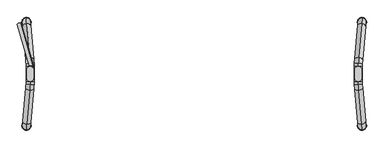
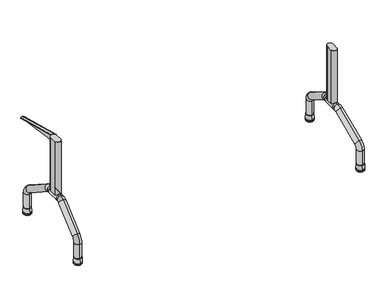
"""IFC4 building model written with IfcOpenShell, lengths in millimetres: furniture geometry, Mesa para refeitório : Mesa para refeitório 180x60cm cód 70472.4."""

from ifc_helpers import new_model, si_unit, point, frame, frame_2d, origin, place, context, project, spatial, polyline, circle_curve, ellipse_curve, trimmed, segment, composite_curve, outline, extrude, source, transform, mapped, element, save
from ifc_brep_helpers import plane_surface, cylinder_surface, revolved_surface, extruded_surface, advanced_brep


def furniture_7e1a75bf(model_context):
    return source(origin(), model_context, "Body", "SolidModel", [
        advanced_brep(
        [(-819.4401581, 37.5, 255.0), (-819.4401581, -37.5, 255.0), (-819.4401581, -37.5, 295.0), (-819.4401581, 37.5, 295.0), (-820.0583573, -51.7441422, 295.0), (-820.0583573, -51.7441422, 255.0), (-820.0583573, 51.7441422, 295.0), (-820.0583573, 51.7441422, 255.0)],
        [
            (0, 1),
            (1, 2, ellipse_curve(frame((-819.4401581, -37.5, 275.0), z_axis=(0.0, 1.0, 0.0), x_axis=(0.0, 0.0, -1.0)), 20.0, 19.923894)),
            (2, 3),
            (3, 0, ellipse_curve(frame((-819.4401581, 37.5, 275.0), z_axis=(0.0, -1.0, 0.0), x_axis=(0.0, 0.0, -1.0)), 20.0, 19.923894)),
            (2, 1, ellipse_curve(frame((-819.4401581, -37.5, 275.0), z_axis=(0.0, 1.0, 0.0), x_axis=(0.0, 0.0, -1.0)), 20.0, 19.923894)),
            (0, 3, ellipse_curve(frame((-819.4401581, 37.5, 275.0), z_axis=(0.0, -1.0, 0.0), x_axis=(0.0, 0.0, -1.0)), 20.0, 19.923894)),
            (4, 5, ellipse_curve(frame((-820.0583573, -51.7441422, 275.0), z_axis=(-0.08663729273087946, -0.9962399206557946, 0.0), x_axis=(0.0, 0.0, -1.0)), 20.0, 19.923894)),
            (5, 4, ellipse_curve(frame((-820.0583573, -51.7441422, 275.0), z_axis=(-0.08663729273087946, -0.9962399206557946, 0.0), x_axis=(0.0, 0.0, -1.0)), 20.0, 19.923894)),
            (4, 2, circle_curve(frame((-983.8513695, -37.5, 295.0), z_axis=(0.0, 0.0, 1.0), x_axis=(1.0, 0.0, 0.0)), 164.4112114)),
            (1, 5, circle_curve(frame((-983.8513695, -37.5, 255.0), z_axis=(0.0, 0.0, -1.0), x_axis=(1.0, 0.0, 0.0)), 164.4112114)),
            (6, 7, ellipse_curve(frame((-820.0583573, 51.7441422, 275.0), z_axis=(-0.08663729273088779, 0.9962399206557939, 0.0), x_axis=(0.0, 0.0, -1.0)), 20.0, 19.923894)),
            (7, 6, ellipse_curve(frame((-820.0583573, 51.7441422, 275.0), z_axis=(-0.08663729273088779, 0.9962399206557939, 0.0), x_axis=(0.0, 0.0, -1.0)), 20.0, 19.923894)),
            (3, 6, circle_curve(frame((-983.8513695, 37.5, 295.0), z_axis=(0.0, 0.0, 1.0), x_axis=(0.996239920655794, 0.08663729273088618, 0.0)), 164.4112114)),
            (7, 0, circle_curve(frame((-983.8513695, 37.5, 255.0), z_axis=(0.0, 0.0, -1.0), x_axis=(0.996239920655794, 0.08663729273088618, 0.0)), 164.4112114)),
        ],
        [
            extruded_surface(trimmed(ellipse_curve(frame((-819.4401581, 37.5, 275.0), z_axis=(0.0, -1.0, 0.0), x_axis=(0.0, 0.0, -1.0)), 20.0, 19.923894), [point((-819.4401581, 37.5, 295.0))], [point((-819.4401581, 37.5, 255.0))], True, "CARTESIAN"), (0.0, -75.0, 0.0), 75.0),
            extruded_surface(trimmed(ellipse_curve(frame((-819.4401581, 37.5, 275.0), z_axis=(0.0, -1.0, 0.0), x_axis=(0.0, 0.0, -1.0)), 20.0, 19.923894), [point((-819.4401581, 37.5, 255.0))], [point((-819.4401581, 37.5, 295.0))], True, "CARTESIAN"), (0.0, -75.0, 0.0), 75.0),
            plane_surface(frame((-820.0583573, -51.7441422, 0.0), z_axis=(-0.08663729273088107, -0.9962399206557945, 0.0), x_axis=(0.0, 0.0, 1.0))),
            revolved_surface(trimmed(ellipse_curve(frame((-819.4401581, -37.5, 275.0), z_axis=(0.0, -1.0, 0.0), x_axis=(0.0, 0.0, -1.0)), 20.0, 19.923894), [point((-819.4401581, -37.5, 295.0))], [point((-819.4401581, -37.5, 255.0))], True, "CARTESIAN"), (-983.8513695, -37.5, 0.0), (0.0, 0.0, 1.0)),
            revolved_surface(trimmed(ellipse_curve(frame((-819.4401581, -37.5, 275.0), z_axis=(0.0, -1.0, 0.0), x_axis=(0.0, 0.0, -1.0)), 20.0, 19.923894), [point((-819.4401581, -37.5, 255.0))], [point((-819.4401581, -37.5, 295.0))], True, "CARTESIAN"), (-983.8513695, -37.5, 0.0), (0.0, 0.0, 1.0)),
            plane_surface(frame((-820.0583573, 51.7441422, 0.0), z_axis=(-0.08663729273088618, 0.996239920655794, 0.0), x_axis=(0.0, 0.0, 1.0))),
            revolved_surface(trimmed(ellipse_curve(frame((-820.0583573, 51.7441422, 275.0), z_axis=(0.08663729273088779, -0.9962399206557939, 0.0), x_axis=(0.0, 0.0, -1.0)), 20.0, 19.923894), [point((-820.0583573, 51.7441422, 295.0))], [point((-820.0583573, 51.7441422, 255.0))], True, "CARTESIAN"), (-983.8513695, 37.5, 0.0), (0.0, 0.0, 1.0)),
            revolved_surface(trimmed(ellipse_curve(frame((-820.0583573, 51.7441422, 275.0), z_axis=(0.08663729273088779, -0.9962399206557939, 0.0), x_axis=(0.0, 0.0, -1.0)), 20.0, 19.923894), [point((-820.0583573, 51.7441422, 255.0))], [point((-820.0583573, 51.7441422, 295.0))], True, "CARTESIAN"), (-983.8513695, 37.5, 0.0), (0.0, 0.0, 1.0)),
        ],
        [
            (0, [[1, 2, 3, 4]]),
            (1, [[-3, 5, -1, 6]]),
            (2, [[7, 8]]),
            (3, [[-7, 9, -2, 10]]),
            (4, [[-8, -10, -5, -9]]),
            (5, [[11, 12]]),
            (6, [[-4, 13, -12, 14]]),
            (7, [[-6, -14, -11, -13]]),
        ],
    ),
        advanced_brep(
        [(-839.9590188, 279.1314153, 43.1183008), (-836.4727891, 239.2836274, 43.1183008), (-839.9590188, 279.1314153, 130.5759348), (-836.4727891, 239.2836274, 130.5759348), (-837.4872272, 250.8787073, 181.5558347), (-822.822711, 83.2625212, 285.9798998), (-820.9843424, 62.2498719, 251.9932999), (-835.6488585, 229.866058, 147.5692348), (-820.0651581, 51.7435473, 295.0), (-820.0651581, 51.7435473, 255.0)],
        [
            (0, 1, circle_curve(frame((-838.215904, 259.2075213, 43.1183008), z_axis=(0.0, 0.0, -1.0), x_axis=(0.08715574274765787, -0.9961946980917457, 0.0)), 20.0)),
            (1, 0, circle_curve(frame((-838.215904, 259.2075213, 43.1183008), z_axis=(0.0, 0.0, -1.0), x_axis=(0.08715574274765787, -0.9961946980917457, 0.0)), 20.0)),
            (0, 2),
            (2, 3, circle_curve(frame((-838.215904, 259.2075213, 130.5759348), z_axis=(0.0, 0.0, -1.0), x_axis=(0.08715574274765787, -0.9961946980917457, 0.0)), 20.0)),
            (3, 1),
            (3, 2, circle_curve(frame((-838.215904, 259.2075213, 130.5759348), z_axis=(0.0, 0.0, -1.0), x_axis=(0.08715574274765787, -0.9961946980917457, 0.0)), 20.0)),
            (4, 5),
            (5, 6, circle_curve(frame((-821.9035267, 72.7561965, 268.9865999), z_axis=(-0.07405318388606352, 0.8464317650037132, -0.5273228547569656), x_axis=(0.04595921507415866, -0.5253162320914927, -0.8496649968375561)), 20.0)),
            (6, 7),
            (7, 4, circle_curve(frame((-836.5680429, 240.3723827, 164.5625347), z_axis=(0.07405318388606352, -0.8464317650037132, 0.5273228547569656), x_axis=(0.04595921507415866, -0.5253162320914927, -0.8496649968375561)), 20.0)),
            (6, 5, circle_curve(frame((-821.9035267, 72.7561965, 268.9865999), z_axis=(-0.07405318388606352, 0.8464317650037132, -0.5273228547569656), x_axis=(0.04595921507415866, -0.5253162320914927, -0.8496649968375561)), 20.0)),
            (4, 7, circle_curve(frame((-836.5680429, 240.3723827, 164.5625347), z_axis=(0.07405318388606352, -0.8464317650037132, 0.5273228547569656), x_axis=(0.04595921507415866, -0.5253162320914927, -0.8496649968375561)), 20.0)),
            (7, 3, circle_curve(frame((-834.7296742, 219.3597334, 130.5759348), z_axis=(-0.9961946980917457, -0.08715574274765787, 0.0), x_axis=(-0.08715574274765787, 0.9961946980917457, 0.0)), 20.0)),
            (2, 4, circle_curve(frame((-834.7296742, 219.3597334, 130.5759348), z_axis=(0.9961946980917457, 0.08715574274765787, 0.0), x_axis=(-0.08715574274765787, 0.9961946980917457, 0.0)), 60.0)),
            (8, 9, circle_curve(frame((-820.0651581, 51.7435473, 275.0), z_axis=(0.08715574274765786, -0.9961946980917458, 0.0), x_axis=(0.0, 0.0, -1.0)), 20.0)),
            (9, 8, circle_curve(frame((-820.0651581, 51.7435473, 275.0), z_axis=(0.08715574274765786, -0.9961946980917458, 0.0), x_axis=(0.0, 0.0, -1.0)), 20.0)),
            (9, 6, circle_curve(frame((-820.0651581, 51.7435473, 235.0), z_axis=(-0.9961946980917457, -0.08715574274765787, 0.0), x_axis=(-0.045959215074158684, 0.5253162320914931, 0.8496649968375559)), 20.0)),
            (5, 8, circle_curve(frame((-820.0651581, 51.7435473, 235.0), z_axis=(0.9961946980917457, 0.08715574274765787, 0.0), x_axis=(-0.045959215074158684, 0.5253162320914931, 0.8496649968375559)), 60.0)),
        ],
        [
            plane_surface(frame((-150.8415623, 319.3449838, 43.1183008), z_axis=(0.0, 0.0, -1.0000000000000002), x_axis=(-0.9961946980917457, -0.08715574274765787, 0.0))),
            cylinder_surface(frame((-838.215904, 259.2075213, 43.1183008), z_axis=(0.0, 0.0, -1.0000000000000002), x_axis=(0.08715574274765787, -0.9961946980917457, 0.0)), 20.0),
            cylinder_surface(frame((-836.5680429, 240.3723827, 164.5625347), z_axis=(-0.07405318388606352, 0.8464317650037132, -0.5273228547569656), x_axis=(0.04595921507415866, -0.5253162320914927, -0.8496649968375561)), 20.0),
            revolved_surface(trimmed(ellipse_curve(frame((-838.215904, 259.2075213, 130.5759348), z_axis=(0.0, 0.0, 1.0000000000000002), x_axis=(0.08715574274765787, -0.9961946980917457, 0.0)), 20.0, 20.0), [point((-836.4727891, 239.2836274, 130.5759348))], [point((-839.9590188, 279.1314153, 130.5759348))], True, "CARTESIAN"), (-147.3553326, 279.4971959, 130.5759348), (-0.9961946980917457, -0.08715574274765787, 0.0)),
            revolved_surface(trimmed(ellipse_curve(frame((-838.215904, 259.2075213, 130.5759348), z_axis=(0.0, 0.0, 1.0000000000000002), x_axis=(0.08715574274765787, -0.9961946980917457, 0.0)), 20.0, 20.0), [point((-839.9590188, 279.1314153, 130.5759348))], [point((-836.4727891, 239.2836274, 130.5759348))], True, "CARTESIAN"), (-147.3553326, 279.4971959, 130.5759348), (-0.9961946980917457, -0.08715574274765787, 0.0)),
            plane_surface(frame((-132.6908165, 111.8810098, 275.0), z_axis=(0.08715574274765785, -0.9961946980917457, 0.0), x_axis=(-0.9961946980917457, -0.08715574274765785, 0.0))),
            revolved_surface(trimmed(ellipse_curve(frame((-821.9035267, 72.7561965, 268.9865999), z_axis=(0.07405318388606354, -0.8464317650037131, 0.527322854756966), x_axis=(0.045959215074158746, -0.5253162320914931, -0.8496649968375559)), 20.0, 20.0), [point((-820.9843424, 62.2498719, 251.9932999))], [point((-822.822711, 83.2625212, 285.9798998))], True, "CARTESIAN"), (-132.6908165, 111.8810098, 235.0), (-0.9961946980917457, -0.08715574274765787, 0.0)),
            revolved_surface(trimmed(ellipse_curve(frame((-821.9035267, 72.7561965, 268.9865999), z_axis=(0.07405318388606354, -0.8464317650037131, 0.527322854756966), x_axis=(0.045959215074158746, -0.5253162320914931, -0.8496649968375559)), 20.0, 20.0), [point((-822.822711, 83.2625212, 285.9798998))], [point((-820.9843424, 62.2498719, 251.9932999))], True, "CARTESIAN"), (-132.6908165, 111.8810098, 235.0), (-0.9961946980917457, -0.08715574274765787, 0.0)),
        ],
        [
            (0, [[1, 2]]),
            (1, [[3, 4, 5, -1]]),
            (1, [[-5, 6, -3, -2]]),
            (2, [[7, 8, 9, 10]]),
            (2, [[-9, 11, -7, 12]]),
            (3, [[-10, 13, -4, 14]]),
            (4, [[-12, -14, -6, -13]]),
            (5, [[15, 16]]),
            (6, [[-16, 17, -8, 18]]),
            (7, [[-15, -18, -11, -17]]),
        ],
    ),
        advanced_brep(
        [(-836.4727891, -239.2836274, 43.1183008), (-839.9590188, -279.1314153, 43.1183008), (-839.9590188, -279.1314153, 130.5759348), (-836.4727891, -239.2836274, 130.5759348), (-837.4872272, -250.8787073, 181.5558347), (-822.822711, -83.2625212, 285.9798998), (-820.9843424, -62.2498719, 251.9932999), (-835.6488585, -229.866058, 147.5692348), (-820.0651581, -51.7435473, 255.0), (-820.0651581, -51.7435473, 295.0)],
        [
            (0, 1, circle_curve(frame((-838.215904, -259.2075213, 43.1183008), z_axis=(0.0, 0.0, -1.0), x_axis=(-0.08715574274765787, -0.9961946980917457, 0.0)), 20.0)),
            (1, 0, circle_curve(frame((-838.215904, -259.2075213, 43.1183008), z_axis=(0.0, 0.0, -1.0), x_axis=(-0.08715574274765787, -0.9961946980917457, 0.0)), 20.0)),
            (1, 2),
            (2, 3, circle_curve(frame((-838.215904, -259.2075213, 130.5759348), z_axis=(0.0, 0.0, -1.0), x_axis=(-0.08715574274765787, -0.9961946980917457, 0.0)), 20.0)),
            (3, 0),
            (3, 2, circle_curve(frame((-838.215904, -259.2075213, 130.5759348), z_axis=(0.0, 0.0, -1.0), x_axis=(-0.08715574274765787, -0.9961946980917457, 0.0)), 20.0)),
            (4, 5),
            (5, 6, circle_curve(frame((-821.9035267, -72.7561965, 268.9865999), z_axis=(-0.07405318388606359, -0.8464317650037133, -0.5273228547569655), x_axis=(-0.04595921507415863, -0.5253162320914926, 0.8496649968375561)), 20.0)),
            (6, 7),
            (7, 4, circle_curve(frame((-836.5680429, -240.3723827, 164.5625347), z_axis=(0.07405318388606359, 0.8464317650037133, 0.5273228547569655), x_axis=(-0.04595921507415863, -0.5253162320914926, 0.8496649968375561)), 20.0)),
            (6, 5, circle_curve(frame((-821.9035267, -72.7561965, 268.9865999), z_axis=(-0.07405318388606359, -0.8464317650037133, -0.5273228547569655), x_axis=(-0.04595921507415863, -0.5253162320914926, 0.8496649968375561)), 20.0)),
            (4, 7, circle_curve(frame((-836.5680429, -240.3723827, 164.5625347), z_axis=(0.07405318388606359, 0.8464317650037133, 0.5273228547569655), x_axis=(-0.04595921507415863, -0.5253162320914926, 0.8496649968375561)), 20.0)),
            (7, 3, circle_curve(frame((-834.7296742, -219.3597334, 130.5759348), z_axis=(0.9961946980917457, -0.08715574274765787, 0.0), x_axis=(-0.08715574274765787, -0.9961946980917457, 0.0)), 20.0)),
            (2, 4, circle_curve(frame((-834.7296742, -219.3597334, 130.5759348), z_axis=(-0.9961946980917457, 0.08715574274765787, 0.0), x_axis=(-0.08715574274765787, -0.9961946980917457, 0.0)), 60.0)),
            (8, 9, circle_curve(frame((-820.0651581, -51.7435473, 275.0), z_axis=(0.08715574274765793, 0.9961946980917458, 0.0), x_axis=(0.0, 0.0, 1.0)), 20.0)),
            (9, 8, circle_curve(frame((-820.0651581, -51.7435473, 275.0), z_axis=(0.08715574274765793, 0.9961946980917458, 0.0), x_axis=(0.0, 0.0, 1.0)), 20.0)),
            (8, 6, circle_curve(frame((-820.0651581, -51.7435473, 235.0), z_axis=(0.9961946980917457, -0.08715574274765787, 0.0), x_axis=(-0.045959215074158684, -0.5253162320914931, 0.8496649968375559)), 20.0)),
            (5, 9, circle_curve(frame((-820.0651581, -51.7435473, 235.0), z_axis=(-0.9961946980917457, 0.08715574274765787, 0.0), x_axis=(-0.045959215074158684, -0.5253162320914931, 0.8496649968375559)), 60.0)),
        ],
        [
            plane_surface(frame((-150.8415623, -319.3449838, 43.1183008), z_axis=(0.0, 0.0, -1.0000000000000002), x_axis=(-0.9961946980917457, 0.08715574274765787, 0.0))),
            cylinder_surface(frame((-838.215904, -259.2075213, 43.1183008), z_axis=(0.0, 0.0, -1.0000000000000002), x_axis=(-0.08715574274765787, -0.9961946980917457, 0.0)), 20.0),
            cylinder_surface(frame((-836.5680429, -240.3723827, 164.5625347), z_axis=(-0.07405318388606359, -0.8464317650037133, -0.5273228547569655), x_axis=(-0.04595921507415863, -0.5253162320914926, 0.8496649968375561)), 20.0),
            revolved_surface(trimmed(ellipse_curve(frame((-838.215904, -259.2075213, 130.5759348), z_axis=(0.0, 0.0, 1.0000000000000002), x_axis=(-0.08715574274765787, -0.9961946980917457, 0.0)), 20.0, 20.0), [point((-836.4727891, -239.2836274, 130.5759348))], [point((-839.9590188, -279.1314153, 130.5759348))], True, "CARTESIAN"), (-147.3553326, -279.4971959, 130.5759348), (0.9961946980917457, -0.08715574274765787, 0.0)),
            revolved_surface(trimmed(ellipse_curve(frame((-838.215904, -259.2075213, 130.5759348), z_axis=(0.0, 0.0, 1.0000000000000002), x_axis=(-0.08715574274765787, -0.9961946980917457, 0.0)), 20.0, 20.0), [point((-839.9590188, -279.1314153, 130.5759348))], [point((-836.4727891, -239.2836274, 130.5759348))], True, "CARTESIAN"), (-147.3553326, -279.4971959, 130.5759348), (0.9961946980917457, -0.08715574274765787, 0.0)),
            plane_surface(frame((-132.6908165, -111.8810098, 275.0), z_axis=(0.0871557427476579, 0.9961946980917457, 0.0), x_axis=(-0.9961946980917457, 0.0871557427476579, 0.0))),
            revolved_surface(trimmed(ellipse_curve(frame((-821.9035267, -72.7561965, 268.9865999), z_axis=(0.0740531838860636, 0.8464317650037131, 0.527322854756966), x_axis=(-0.04595921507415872, -0.5253162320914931, 0.8496649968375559)), 20.0, 20.0), [point((-820.9843424, -62.2498719, 251.9932999))], [point((-822.822711, -83.2625212, 285.9798998))], True, "CARTESIAN"), (-132.6908165, -111.8810098, 235.0), (0.9961946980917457, -0.08715574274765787, 0.0)),
            revolved_surface(trimmed(ellipse_curve(frame((-821.9035267, -72.7561965, 268.9865999), z_axis=(0.0740531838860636, 0.8464317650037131, 0.527322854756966), x_axis=(-0.04595921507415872, -0.5253162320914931, 0.8496649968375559)), 20.0, 20.0), [point((-822.822711, -83.2625212, 285.9798998))], [point((-820.9843424, -62.2498719, 251.9932999))], True, "CARTESIAN"), (-132.6908165, -111.8810098, 235.0), (0.9961946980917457, -0.08715574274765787, 0.0)),
        ],
        [
            (0, [[1, 2]]),
            (1, [[3, 4, 5, -2]]),
            (1, [[-5, 6, -3, -1]]),
            (2, [[7, 8, 9, 10]]),
            (2, [[-9, 11, -7, 12]]),
            (3, [[-10, 13, -4, 14]]),
            (4, [[-12, -14, -6, -13]]),
            (5, [[15, 16]]),
            (6, [[-15, 17, -8, 18]]),
            (7, [[-16, -18, -11, -17]]),
        ],
    ),
        extrude(outline(composite_curve([segment(polyline([(-837.5814475, -19.3376613), (-837.5814475, 19.4032698)]), True, "CONTINUOUS"), segment(trimmed(circle_curve(frame_2d((-819.5814475, 19.4032698)), 18.0), [point((-837.5814475, 19.4032698))], [point((-801.5814475, 19.4032698))], False, "CARTESIAN"), True, "CONTINUOUS"), segment(polyline([(-801.5814475, 19.4032698), (-801.5814475, -19.3376613)]), True, "CONTINUOUS"), segment(trimmed(circle_curve(frame_2d((-819.5814475, -19.3376613)), 18.0), [point((-801.5814475, -19.3376613))], [point((-837.5814475, -19.3376613))], False, "CARTESIAN"), True, "CONTINUOUS")], self_intersect=False)), frame((0.0, 0.0, 275.0), z_axis=(0.0, 0.0, 1.0), x_axis=(1.0, 0.0, 0.0)), (0.0, 0.0, 1.0), 347.0),
        advanced_brep(
        [(819.4401581, 37.5, 255.0), (819.4401581, 37.5, 295.0), (819.4401581, -37.5, 295.0), (819.4401581, -37.5, 255.0), (820.0583573, -51.7441422, 295.0), (820.0583573, -51.7441422, 255.0), (820.0583573, 51.7441422, 295.0), (820.0583573, 51.7441422, 255.0)],
        [
            (0, 1, ellipse_curve(frame((819.4401581, 37.5, 275.0), z_axis=(0.0, -1.0, 0.0), x_axis=(0.0, 0.0, -1.0)), 20.0, 19.923894)),
            (1, 2),
            (2, 3, ellipse_curve(frame((819.4401581, -37.5, 275.0), z_axis=(0.0, 1.0, 0.0), x_axis=(0.0, 0.0, -1.0)), 20.0, 19.923894)),
            (3, 0),
            (1, 0, ellipse_curve(frame((819.4401581, 37.5, 275.0), z_axis=(0.0, -1.0, 0.0), x_axis=(0.0, 0.0, -1.0)), 20.0, 19.923894)),
            (3, 2, ellipse_curve(frame((819.4401581, -37.5, 275.0), z_axis=(0.0, 1.0, 0.0), x_axis=(0.0, 0.0, -1.0)), 20.0, 19.923894)),
            (4, 5, ellipse_curve(frame((820.0583573, -51.7441422, 275.0), z_axis=(0.08663729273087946, -0.9962399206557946, 0.0), x_axis=(0.0, 0.0, -1.0)), 20.0, 19.923894)),
            (5, 4, ellipse_curve(frame((820.0583573, -51.7441422, 275.0), z_axis=(0.08663729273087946, -0.9962399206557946, 0.0), x_axis=(0.0, 0.0, -1.0)), 20.0, 19.923894)),
            (5, 3, circle_curve(frame((983.8513695, -37.5, 255.0), z_axis=(0.0, 0.0, -1.0), x_axis=(-1.0, 0.0, 0.0)), 164.4112114)),
            (2, 4, circle_curve(frame((983.8513695, -37.5, 295.0), z_axis=(0.0, 0.0, 1.0), x_axis=(-1.0, 0.0, 0.0)), 164.4112114)),
            (6, 7, ellipse_curve(frame((820.0583573, 51.7441422, 275.0), z_axis=(0.08663729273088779, 0.9962399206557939, 0.0), x_axis=(0.0, 0.0, -1.0)), 20.0, 19.923894)),
            (7, 6, ellipse_curve(frame((820.0583573, 51.7441422, 275.0), z_axis=(0.08663729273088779, 0.9962399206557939, 0.0), x_axis=(0.0, 0.0, -1.0)), 20.0, 19.923894)),
            (0, 7, circle_curve(frame((983.8513695, 37.5, 255.0), z_axis=(0.0, 0.0, -1.0), x_axis=(-0.996239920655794, 0.08663729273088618, 0.0)), 164.4112114)),
            (6, 1, circle_curve(frame((983.8513695, 37.5, 295.0), z_axis=(0.0, 0.0, 1.0), x_axis=(-0.996239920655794, 0.08663729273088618, 0.0)), 164.4112114)),
        ],
        [
            extruded_surface(trimmed(ellipse_curve(frame((819.4401581, -37.5, 275.0), z_axis=(0.0, 1.0, 0.0), x_axis=(0.0, 0.0, -1.0)), 20.0, 19.923894), [point((819.4401581, -37.5, 295.0))], [point((819.4401581, -37.5, 255.0))], True, "CARTESIAN"), (0.0, 75.0, 0.0), 75.0),
            extruded_surface(trimmed(ellipse_curve(frame((819.4401581, -37.5, 275.0), z_axis=(0.0, 1.0, 0.0), x_axis=(0.0, 0.0, -1.0)), 20.0, 19.923894), [point((819.4401581, -37.5, 255.0))], [point((819.4401581, -37.5, 295.0))], True, "CARTESIAN"), (0.0, 75.0, 0.0), 75.0),
            plane_surface(frame((820.0583573, -51.7441422, 0.0), z_axis=(0.08663729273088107, -0.9962399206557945, 0.0), x_axis=(0.0, 0.0, 1.0))),
            revolved_surface(trimmed(ellipse_curve(frame((819.4401581, -37.5, 275.0), z_axis=(0.0, 1.0, 0.0), x_axis=(0.0, 0.0, -1.0)), 20.0, 19.923894), [point((819.4401581, -37.5, 295.0))], [point((819.4401581, -37.5, 255.0))], True, "CARTESIAN"), (983.8513695, -37.5, 0.0), (0.0, 0.0, 1.0)),
            revolved_surface(trimmed(ellipse_curve(frame((819.4401581, -37.5, 275.0), z_axis=(0.0, 1.0, 0.0), x_axis=(0.0, 0.0, -1.0)), 20.0, 19.923894), [point((819.4401581, -37.5, 255.0))], [point((819.4401581, -37.5, 295.0))], True, "CARTESIAN"), (983.8513695, -37.5, 0.0), (0.0, 0.0, 1.0)),
            plane_surface(frame((820.0583573, 51.7441422, 0.0), z_axis=(0.08663729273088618, 0.996239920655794, 0.0), x_axis=(0.0, 0.0, 1.0))),
            revolved_surface(trimmed(ellipse_curve(frame((820.0583573, 51.7441422, 275.0), z_axis=(0.08663729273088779, 0.9962399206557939, 0.0), x_axis=(0.0, 0.0, -1.0)), 20.0, 19.923894), [point((820.0583573, 51.7441422, 295.0))], [point((820.0583573, 51.7441422, 255.0))], True, "CARTESIAN"), (983.8513695, 37.5, 0.0), (0.0, 0.0, 1.0)),
            revolved_surface(trimmed(ellipse_curve(frame((820.0583573, 51.7441422, 275.0), z_axis=(0.08663729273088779, 0.9962399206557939, 0.0), x_axis=(0.0, 0.0, -1.0)), 20.0, 19.923894), [point((820.0583573, 51.7441422, 255.0))], [point((820.0583573, 51.7441422, 295.0))], True, "CARTESIAN"), (983.8513695, 37.5, 0.0), (0.0, 0.0, 1.0)),
        ],
        [
            (0, [[1, 2, 3, 4]]),
            (1, [[5, -4, 6, -2]]),
            (2, [[7, 8]]),
            (3, [[9, -3, 10, -8]]),
            (4, [[-10, -6, -9, -7]]),
            (5, [[11, 12]]),
            (6, [[13, -11, 14, -1]]),
            (7, [[-14, -12, -13, -5]]),
        ],
    ),
        advanced_brep(
        [(839.9590188, 279.1314153, 43.1183008), (836.4727891, 239.2836274, 43.1183008), (836.4727891, 239.2836274, 130.5759348), (839.9590188, 279.1314153, 130.5759348), (837.4872272, 250.8787073, 181.5558347), (835.6488585, 229.866058, 147.5692348), (820.9843424, 62.2498719, 251.9932999), (822.822711, 83.2625212, 285.9798998), (820.0651581, 51.7435473, 295.0), (820.0651581, 51.7435473, 255.0)],
        [
            (0, 1, circle_curve(frame((838.215904, 259.2075213, 43.1183008), z_axis=(0.0, 0.0, -1.0), x_axis=(-0.08715574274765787, -0.9961946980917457, 0.0)), 20.0)),
            (1, 0, circle_curve(frame((838.215904, 259.2075213, 43.1183008), z_axis=(0.0, 0.0, -1.0), x_axis=(-0.08715574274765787, -0.9961946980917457, 0.0)), 20.0)),
            (1, 2),
            (2, 3, circle_curve(frame((838.215904, 259.2075213, 130.5759348), z_axis=(0.0, 0.0, -1.0), x_axis=(-0.08715574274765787, -0.9961946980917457, 0.0)), 20.0)),
            (3, 0),
            (3, 2, circle_curve(frame((838.215904, 259.2075213, 130.5759348), z_axis=(0.0, 0.0, -1.0), x_axis=(-0.08715574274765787, -0.9961946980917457, 0.0)), 20.0)),
            (4, 5, circle_curve(frame((836.5680429, 240.3723827, 164.5625347), z_axis=(-0.07405318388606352, -0.8464317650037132, 0.5273228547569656), x_axis=(-0.04595921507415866, -0.5253162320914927, -0.8496649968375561)), 20.0)),
            (5, 6),
            (6, 7, circle_curve(frame((821.9035267, 72.7561965, 268.9865999), z_axis=(0.07405318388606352, 0.8464317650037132, -0.5273228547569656), x_axis=(-0.04595921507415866, -0.5253162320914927, -0.8496649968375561)), 20.0)),
            (7, 4),
            (5, 4, circle_curve(frame((836.5680429, 240.3723827, 164.5625347), z_axis=(-0.07405318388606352, -0.8464317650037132, 0.5273228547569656), x_axis=(-0.04595921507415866, -0.5253162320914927, -0.8496649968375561)), 20.0)),
            (7, 6, circle_curve(frame((821.9035267, 72.7561965, 268.9865999), z_axis=(0.07405318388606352, 0.8464317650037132, -0.5273228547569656), x_axis=(-0.04595921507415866, -0.5253162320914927, -0.8496649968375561)), 20.0)),
            (4, 3, circle_curve(frame((834.7296742, 219.3597334, 130.5759348), z_axis=(-0.9961946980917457, 0.08715574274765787, 0.0), x_axis=(0.08715574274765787, 0.9961946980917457, 0.0)), 60.0)),
            (2, 5, circle_curve(frame((834.7296742, 219.3597334, 130.5759348), z_axis=(0.9961946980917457, -0.08715574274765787, 0.0), x_axis=(0.08715574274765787, 0.9961946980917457, 0.0)), 20.0)),
            (8, 9, circle_curve(frame((820.0651581, 51.7435473, 275.0), z_axis=(-0.08715574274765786, -0.9961946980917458, 0.0), x_axis=(0.0, 0.0, -1.0)), 20.0)),
            (9, 8, circle_curve(frame((820.0651581, 51.7435473, 275.0), z_axis=(-0.08715574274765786, -0.9961946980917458, 0.0), x_axis=(0.0, 0.0, -1.0)), 20.0)),
            (8, 7, circle_curve(frame((820.0651581, 51.7435473, 235.0), z_axis=(-0.9961946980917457, 0.08715574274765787, 0.0), x_axis=(0.045959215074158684, 0.5253162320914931, 0.8496649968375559)), 60.0)),
            (6, 9, circle_curve(frame((820.0651581, 51.7435473, 235.0), z_axis=(0.9961946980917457, -0.08715574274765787, 0.0), x_axis=(0.045959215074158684, 0.5253162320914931, 0.8496649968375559)), 20.0)),
        ],
        [
            plane_surface(frame((150.8415623, 319.3449838, 43.1183008), z_axis=(0.0, 0.0, -1.0000000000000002), x_axis=(0.9961946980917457, -0.08715574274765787, 0.0))),
            cylinder_surface(frame((838.215904, 259.2075213, 43.1183008), z_axis=(0.0, 0.0, -1.0000000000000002), x_axis=(-0.08715574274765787, -0.9961946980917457, 0.0)), 20.0),
            cylinder_surface(frame((836.5680429, 240.3723827, 164.5625347), z_axis=(0.07405318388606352, 0.8464317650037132, -0.5273228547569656), x_axis=(-0.04595921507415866, -0.5253162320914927, -0.8496649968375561)), 20.0),
            revolved_surface(trimmed(ellipse_curve(frame((838.215904, 259.2075213, 130.5759348), z_axis=(0.0, 0.0, -1.0000000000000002), x_axis=(-0.08715574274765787, -0.9961946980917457, 0.0)), 20.0, 20.0), [point((836.4727891, 239.2836274, 130.5759348))], [point((839.9590188, 279.1314153, 130.5759348))], True, "CARTESIAN"), (147.3553326, 279.4971959, 130.5759348), (0.9961946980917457, -0.08715574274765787, 0.0)),
            revolved_surface(trimmed(ellipse_curve(frame((838.215904, 259.2075213, 130.5759348), z_axis=(0.0, 0.0, -1.0000000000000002), x_axis=(-0.08715574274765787, -0.9961946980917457, 0.0)), 20.0, 20.0), [point((839.9590188, 279.1314153, 130.5759348))], [point((836.4727891, 239.2836274, 130.5759348))], True, "CARTESIAN"), (147.3553326, 279.4971959, 130.5759348), (0.9961946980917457, -0.08715574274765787, 0.0)),
            plane_surface(frame((132.6908165, 111.8810098, 275.0), z_axis=(-0.08715574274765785, -0.9961946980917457, 0.0), x_axis=(0.9961946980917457, -0.08715574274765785, 0.0))),
            revolved_surface(trimmed(ellipse_curve(frame((821.9035267, 72.7561965, 268.9865999), z_axis=(0.07405318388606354, 0.8464317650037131, -0.527322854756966), x_axis=(-0.045959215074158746, -0.5253162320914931, -0.8496649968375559)), 20.0, 20.0), [point((820.9843424, 62.2498719, 251.9932999))], [point((822.822711, 83.2625212, 285.9798998))], True, "CARTESIAN"), (132.6908165, 111.8810098, 235.0), (0.9961946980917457, -0.08715574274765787, 0.0)),
            revolved_surface(trimmed(ellipse_curve(frame((821.9035267, 72.7561965, 268.9865999), z_axis=(0.07405318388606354, 0.8464317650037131, -0.527322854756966), x_axis=(-0.045959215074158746, -0.5253162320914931, -0.8496649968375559)), 20.0, 20.0), [point((822.822711, 83.2625212, 285.9798998))], [point((820.9843424, 62.2498719, 251.9932999))], True, "CARTESIAN"), (132.6908165, 111.8810098, 235.0), (0.9961946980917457, -0.08715574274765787, 0.0)),
        ],
        [
            (0, [[1, 2]]),
            (1, [[-2, 3, 4, 5]]),
            (1, [[-1, -5, 6, -3]]),
            (2, [[7, 8, 9, 10]]),
            (2, [[11, -10, 12, -8]]),
            (3, [[13, -4, 14, -7]]),
            (4, [[-14, -6, -13, -11]]),
            (5, [[15, 16]]),
            (6, [[17, -9, 18, -15]]),
            (7, [[-18, -12, -17, -16]]),
        ],
    ),
        advanced_brep(
        [(836.4727891, -239.2836274, 43.1183008), (839.9590188, -279.1314153, 43.1183008), (836.4727891, -239.2836274, 130.5759348), (839.9590188, -279.1314153, 130.5759348), (837.4872272, -250.8787073, 181.5558347), (835.6488585, -229.866058, 147.5692348), (820.9843424, -62.2498719, 251.9932999), (822.822711, -83.2625212, 285.9798998), (820.0651581, -51.7435473, 255.0), (820.0651581, -51.7435473, 295.0)],
        [
            (0, 1, circle_curve(frame((838.215904, -259.2075213, 43.1183008), z_axis=(0.0, 0.0, -1.0), x_axis=(0.08715574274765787, -0.9961946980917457, 0.0)), 20.0)),
            (1, 0, circle_curve(frame((838.215904, -259.2075213, 43.1183008), z_axis=(0.0, 0.0, -1.0), x_axis=(0.08715574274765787, -0.9961946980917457, 0.0)), 20.0)),
            (0, 2),
            (2, 3, circle_curve(frame((838.215904, -259.2075213, 130.5759348), z_axis=(0.0, 0.0, -1.0), x_axis=(0.08715574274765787, -0.9961946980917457, 0.0)), 20.0)),
            (3, 1),
            (3, 2, circle_curve(frame((838.215904, -259.2075213, 130.5759348), z_axis=(0.0, 0.0, -1.0), x_axis=(0.08715574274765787, -0.9961946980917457, 0.0)), 20.0)),
            (4, 5, circle_curve(frame((836.5680429, -240.3723827, 164.5625347), z_axis=(-0.07405318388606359, 0.8464317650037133, 0.5273228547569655), x_axis=(0.04595921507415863, -0.5253162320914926, 0.8496649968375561)), 20.0)),
            (5, 6),
            (6, 7, circle_curve(frame((821.9035267, -72.7561965, 268.9865999), z_axis=(0.07405318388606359, -0.8464317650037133, -0.5273228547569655), x_axis=(0.04595921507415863, -0.5253162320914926, 0.8496649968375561)), 20.0)),
            (7, 4),
            (5, 4, circle_curve(frame((836.5680429, -240.3723827, 164.5625347), z_axis=(-0.07405318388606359, 0.8464317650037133, 0.5273228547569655), x_axis=(0.04595921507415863, -0.5253162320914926, 0.8496649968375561)), 20.0)),
            (7, 6, circle_curve(frame((821.9035267, -72.7561965, 268.9865999), z_axis=(0.07405318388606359, -0.8464317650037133, -0.5273228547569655), x_axis=(0.04595921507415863, -0.5253162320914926, 0.8496649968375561)), 20.0)),
            (4, 3, circle_curve(frame((834.7296742, -219.3597334, 130.5759348), z_axis=(0.9961946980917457, 0.08715574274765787, 0.0), x_axis=(0.08715574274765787, -0.9961946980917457, 0.0)), 60.0)),
            (2, 5, circle_curve(frame((834.7296742, -219.3597334, 130.5759348), z_axis=(-0.9961946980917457, -0.08715574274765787, 0.0), x_axis=(0.08715574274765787, -0.9961946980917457, 0.0)), 20.0)),
            (8, 9, circle_curve(frame((820.0651581, -51.7435473, 275.0), z_axis=(-0.08715574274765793, 0.9961946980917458, 0.0), x_axis=(0.0, 0.0, 1.0)), 20.0)),
            (9, 8, circle_curve(frame((820.0651581, -51.7435473, 275.0), z_axis=(-0.08715574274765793, 0.9961946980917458, 0.0), x_axis=(0.0, 0.0, 1.0)), 20.0)),
            (9, 7, circle_curve(frame((820.0651581, -51.7435473, 235.0), z_axis=(0.9961946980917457, 0.08715574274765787, 0.0), x_axis=(0.045959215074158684, -0.5253162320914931, 0.8496649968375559)), 60.0)),
            (6, 8, circle_curve(frame((820.0651581, -51.7435473, 235.0), z_axis=(-0.9961946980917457, -0.08715574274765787, 0.0), x_axis=(0.045959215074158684, -0.5253162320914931, 0.8496649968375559)), 20.0)),
        ],
        [
            plane_surface(frame((150.8415623, -319.3449838, 43.1183008), z_axis=(0.0, 0.0, -1.0000000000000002), x_axis=(0.9961946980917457, 0.08715574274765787, 0.0))),
            cylinder_surface(frame((838.215904, -259.2075213, 43.1183008), z_axis=(0.0, 0.0, -1.0000000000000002), x_axis=(0.08715574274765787, -0.9961946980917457, 0.0)), 20.0),
            cylinder_surface(frame((836.5680429, -240.3723827, 164.5625347), z_axis=(0.07405318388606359, -0.8464317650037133, -0.5273228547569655), x_axis=(0.04595921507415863, -0.5253162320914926, 0.8496649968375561)), 20.0),
            revolved_surface(trimmed(ellipse_curve(frame((838.215904, -259.2075213, 130.5759348), z_axis=(0.0, 0.0, -1.0000000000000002), x_axis=(0.08715574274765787, -0.9961946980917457, 0.0)), 20.0, 20.0), [point((836.4727891, -239.2836274, 130.5759348))], [point((839.9590188, -279.1314153, 130.5759348))], True, "CARTESIAN"), (147.3553326, -279.4971959, 130.5759348), (-0.9961946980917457, -0.08715574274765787, 0.0)),
            revolved_surface(trimmed(ellipse_curve(frame((838.215904, -259.2075213, 130.5759348), z_axis=(0.0, 0.0, -1.0000000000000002), x_axis=(0.08715574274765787, -0.9961946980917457, 0.0)), 20.0, 20.0), [point((839.9590188, -279.1314153, 130.5759348))], [point((836.4727891, -239.2836274, 130.5759348))], True, "CARTESIAN"), (147.3553326, -279.4971959, 130.5759348), (-0.9961946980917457, -0.08715574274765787, 0.0)),
            plane_surface(frame((132.6908165, -111.8810098, 275.0), z_axis=(-0.0871557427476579, 0.9961946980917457, 0.0), x_axis=(0.9961946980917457, 0.0871557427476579, 0.0))),
            revolved_surface(trimmed(ellipse_curve(frame((821.9035267, -72.7561965, 268.9865999), z_axis=(0.0740531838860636, -0.8464317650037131, -0.527322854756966), x_axis=(0.04595921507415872, -0.5253162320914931, 0.8496649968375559)), 20.0, 20.0), [point((820.9843424, -62.2498719, 251.9932999))], [point((822.822711, -83.2625212, 285.9798998))], True, "CARTESIAN"), (132.6908165, -111.8810098, 235.0), (-0.9961946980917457, -0.08715574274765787, 0.0)),
            revolved_surface(trimmed(ellipse_curve(frame((821.9035267, -72.7561965, 268.9865999), z_axis=(0.0740531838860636, -0.8464317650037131, -0.527322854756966), x_axis=(0.04595921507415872, -0.5253162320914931, 0.8496649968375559)), 20.0, 20.0), [point((822.822711, -83.2625212, 285.9798998))], [point((820.9843424, -62.2498719, 251.9932999))], True, "CARTESIAN"), (132.6908165, -111.8810098, 235.0), (-0.9961946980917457, -0.08715574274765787, 0.0)),
        ],
        [
            (0, [[1, 2]]),
            (1, [[-1, 3, 4, 5]]),
            (1, [[-2, -5, 6, -3]]),
            (2, [[7, 8, 9, 10]]),
            (2, [[11, -10, 12, -8]]),
            (3, [[13, -4, 14, -7]]),
            (4, [[-14, -6, -13, -11]]),
            (5, [[15, 16]]),
            (6, [[17, -9, 18, -16]]),
            (7, [[-18, -12, -17, -15]]),
        ],
    ),
        extrude(outline(composite_curve([segment(trimmed(circle_curve(frame_2d((819.5814475, -19.3376613)), 18.0), [point((837.5814475, -19.3376613))], [point((801.5814475, -19.3376613))], False, "CARTESIAN"), True, "CONTINUOUS"), segment(polyline([(801.5814475, -19.3376613), (801.5814475, 19.4032698)]), True, "CONTINUOUS"), segment(trimmed(circle_curve(frame_2d((819.5814475, 19.4032698)), 18.0), [point((801.5814475, 19.4032698))], [point((837.5814475, 19.4032698))], False, "CARTESIAN"), True, "CONTINUOUS"), segment(polyline([(837.5814475, 19.4032698), (837.5814475, -19.3376613)]), True, "CONTINUOUS")], self_intersect=False)), frame((0.0, 0.0, 275.0), z_axis=(0.0, 0.0, 1.0), x_axis=(1.0, 0.0, 0.0)), (0.0, 0.0, 1.0), 347.0),
        advanced_brep(
        [(-838.215904, 280.5839249, 42.9792915), (-838.215904, 281.212521, 42.3931162), (-838.215904, 238.787479, 42.3931162), (-838.215904, 239.4160751, 42.9792915), (-838.215904, 283.125, 15.0433923), (-838.215904, 236.875, 15.0433923), (-838.215904, 283.125, 7.2213749), (-838.215904, 236.875, 7.2213749), (-838.215904, 276.0093092, 0.1056841), (-838.215904, 243.9906908, 0.1056841), (-838.215904, 260.0, 0.1056841), (-838.215904, 260.0, 42.9792915)],
        [
            (0, 1, circle_curve(frame((-838.215904, 280.5839249, 42.3491605), z_axis=(-1.0, 0.0, 0.0), x_axis=(0.0, -1.0, 0.0)), 0.630131)),
            (1, 2, circle_curve(frame((-838.215904, 260.0, 42.3931162), z_axis=(0.0, 0.0, 1.0), x_axis=(0.0, -1.0, 0.0)), 21.212521)),
            (2, 3, circle_curve(frame((-838.215904, 239.4160751, 42.3491605), z_axis=(-1.0, 0.0, 0.0), x_axis=(0.0, 1.0, 0.0)), 0.630131)),
            (3, 0, circle_curve(frame((-838.215904, 260.0, 42.9792915), z_axis=(0.0, 0.0, -1.0), x_axis=(0.0, -1.0, 0.0)), 20.5839249)),
            (2, 1, circle_curve(frame((-838.215904, 260.0, 42.3931162), z_axis=(0.0, 0.0, 1.0), x_axis=(0.0, -1.0, 0.0)), 21.212521)),
            (0, 3, circle_curve(frame((-838.215904, 260.0, 42.9792915), z_axis=(0.0, 0.0, -1.0), x_axis=(0.0, -1.0, 0.0)), 20.5839249)),
            (1, 4),
            (4, 5, circle_curve(frame((-838.215904, 260.0, 15.0433923), z_axis=(0.0, 0.0, 1.0), x_axis=(0.0, -1.0, 0.0)), 23.125)),
            (5, 2),
            (5, 4, circle_curve(frame((-838.215904, 260.0, 15.0433923), z_axis=(0.0, 0.0, 1.0), x_axis=(0.0, -1.0, 0.0)), 23.125)),
            (4, 6),
            (6, 7, circle_curve(frame((-838.215904, 260.0, 7.2213749), z_axis=(0.0, 0.0, 1.0), x_axis=(0.0, -1.0, 0.0)), 23.125)),
            (7, 5),
            (7, 6, circle_curve(frame((-838.215904, 260.0, 7.2213749), z_axis=(0.0, 0.0, 1.0), x_axis=(0.0, -1.0, 0.0)), 23.125)),
            (6, 8, circle_curve(frame((-838.215904, 276.0093092, 7.2213749), z_axis=(-1.0, 0.0, 0.0), x_axis=(0.0, -1.0, 0.0)), 7.1156908)),
            (8, 9, circle_curve(frame((-838.215904, 260.0, 0.1056841), z_axis=(0.0, 0.0, 1.0), x_axis=(0.0, -1.0, 0.0)), 16.0093092)),
            (9, 7, circle_curve(frame((-838.215904, 243.9906908, 7.2213749), z_axis=(-1.0, 0.0, 0.0), x_axis=(0.0, 1.0, 0.0)), 7.1156908)),
            (9, 8, circle_curve(frame((-838.215904, 260.0, 0.1056841), z_axis=(0.0, 0.0, 1.0), x_axis=(0.0, -1.0, 0.0)), 16.0093092)),
            (8, 10),
            (10, 9),
            (11, 0),
            (3, 11),
        ],
        [
            revolved_surface(trimmed(ellipse_curve(frame((-838.215904, 239.4160751, 42.3491605), z_axis=(-1.0, 0.0, 0.0), x_axis=(0.0, 1.0, 0.0)), 0.630131, 0.630131), [point((-838.215904, 238.787479, 42.3931162))], [point((-838.215904, 239.4160751, 42.9792915))], True, "CARTESIAN"), (-838.215904, 260.0, 0.1056841), (0.0, 0.0, 1.0)),
            revolved_surface(polyline([(-838.215904, 236.875, 15.0433923), (-838.215904, 238.787479, 42.3931162)]), (-838.215904, 260.0, 0.1056841), (0.0, 0.0, 1.0)),
            cylinder_surface(frame((-838.215904, 260.0, 0.1056841), z_axis=(0.0, 0.0, 1.0), x_axis=(0.0, -1.0, 0.0)), 23.125),
            revolved_surface(trimmed(ellipse_curve(frame((-838.215904, 243.9906908, 7.2213749), z_axis=(-1.0, 0.0, 0.0), x_axis=(0.0, 1.0, 0.0)), 7.1156908, 7.1156908), [point((-838.215904, 243.9906908, 0.1056841))], [point((-838.215904, 236.875, 7.2213749))], True, "CARTESIAN"), (-838.215904, 260.0, 0.1056841), (0.0, 0.0, 1.0)),
            plane_surface(frame((-838.215904, 260.0, 0.1056841), z_axis=(0.0, 0.0, -1.0), x_axis=(0.0, -1.0, 0.0))),
            plane_surface(frame((-838.215904, 260.0, 42.9792915), z_axis=(0.0, 0.0, 1.0), x_axis=(0.0, -1.0, 0.0))),
        ],
        [
            (0, [[1, 2, 3, 4]]),
            (0, [[-3, 5, -1, 6]]),
            (1, [[7, 8, 9, -2]]),
            (1, [[-9, 10, -7, -5]]),
            (2, [[11, 12, 13, -8]]),
            (2, [[-13, 14, -11, -10]]),
            (3, [[15, 16, 17, -12]]),
            (3, [[-17, 18, -15, -14]]),
            (4, [[19, 20, -16]]),
            (4, [[-20, -19, -18]]),
            (5, [[21, -4, 22]]),
            (5, [[-22, -6, -21]]),
        ],
    ),
        advanced_brep(
        [(-838.215904, -239.4160751, 42.9792915), (-838.215904, -238.787479, 42.3931162), (-838.215904, -281.212521, 42.3931162), (-838.215904, -280.5839249, 42.9792915), (-838.215904, -236.875, 15.0433923), (-838.215904, -283.125, 15.0433923), (-838.215904, -236.875, 7.2213749), (-838.215904, -283.125, 7.2213749), (-838.215904, -243.9906908, 0.1056841), (-838.215904, -276.0093092, 0.1056841), (-838.215904, -260.0, 0.1056841), (-838.215904, -260.0, 42.9792915)],
        [
            (0, 1, circle_curve(frame((-838.215904, -239.4160751, 42.3491605), z_axis=(-1.0, 0.0, 0.0), x_axis=(0.0, -1.0, 0.0)), 0.630131)),
            (1, 2, circle_curve(frame((-838.215904, -260.0, 42.3931162), z_axis=(0.0, 0.0, 1.0), x_axis=(0.0, -1.0, 0.0)), 21.212521)),
            (2, 3, circle_curve(frame((-838.215904, -280.5839249, 42.3491605), z_axis=(-1.0, 0.0, 0.0), x_axis=(0.0, 1.0, 0.0)), 0.630131)),
            (3, 0, circle_curve(frame((-838.215904, -260.0, 42.9792915), z_axis=(0.0, 0.0, -1.0), x_axis=(0.0, -1.0, 0.0)), 20.5839249)),
            (2, 1, circle_curve(frame((-838.215904, -260.0, 42.3931162), z_axis=(0.0, 0.0, 1.0), x_axis=(0.0, -1.0, 0.0)), 21.212521)),
            (0, 3, circle_curve(frame((-838.215904, -260.0, 42.9792915), z_axis=(0.0, 0.0, -1.0), x_axis=(0.0, -1.0, 0.0)), 20.5839249)),
            (1, 4),
            (4, 5, circle_curve(frame((-838.215904, -260.0, 15.0433923), z_axis=(0.0, 0.0, 1.0), x_axis=(0.0, -1.0, 0.0)), 23.125)),
            (5, 2),
            (5, 4, circle_curve(frame((-838.215904, -260.0, 15.0433923), z_axis=(0.0, 0.0, 1.0), x_axis=(0.0, -1.0, 0.0)), 23.125)),
            (4, 6),
            (6, 7, circle_curve(frame((-838.215904, -260.0, 7.2213749), z_axis=(0.0, 0.0, 1.0), x_axis=(0.0, -1.0, 0.0)), 23.125)),
            (7, 5),
            (7, 6, circle_curve(frame((-838.215904, -260.0, 7.2213749), z_axis=(0.0, 0.0, 1.0), x_axis=(0.0, -1.0, 0.0)), 23.125)),
            (6, 8, circle_curve(frame((-838.215904, -243.9906908, 7.2213749), z_axis=(-1.0, 0.0, 0.0), x_axis=(0.0, -1.0, 0.0)), 7.1156908)),
            (8, 9, circle_curve(frame((-838.215904, -260.0, 0.1056841), z_axis=(0.0, 0.0, 1.0), x_axis=(0.0, -1.0, 0.0)), 16.0093092)),
            (9, 7, circle_curve(frame((-838.215904, -276.0093092, 7.2213749), z_axis=(-1.0, 0.0, 0.0), x_axis=(0.0, 1.0, 0.0)), 7.1156908)),
            (9, 8, circle_curve(frame((-838.215904, -260.0, 0.1056841), z_axis=(0.0, 0.0, 1.0), x_axis=(0.0, -1.0, 0.0)), 16.0093092)),
            (8, 10),
            (10, 9),
            (11, 0),
            (3, 11),
        ],
        [
            revolved_surface(trimmed(ellipse_curve(frame((-838.215904, -280.5839249, 42.3491605), z_axis=(-1.0, 0.0, 0.0), x_axis=(0.0, 1.0, 0.0)), 0.630131, 0.630131), [point((-838.215904, -281.212521, 42.3931162))], [point((-838.215904, -280.5839249, 42.9792915))], True, "CARTESIAN"), (-838.215904, -260.0, 0.1056841), (0.0, 0.0, 1.0)),
            revolved_surface(polyline([(-838.215904, -283.125, 15.0433923), (-838.215904, -281.212521, 42.3931162)]), (-838.215904, -260.0, 0.1056841), (0.0, 0.0, 1.0)),
            cylinder_surface(frame((-838.215904, -260.0, 0.1056841), z_axis=(0.0, 0.0, 1.0), x_axis=(0.0, -1.0, 0.0)), 23.125),
            revolved_surface(trimmed(ellipse_curve(frame((-838.215904, -276.0093092, 7.2213749), z_axis=(-1.0, 0.0, 0.0), x_axis=(0.0, 1.0, 0.0)), 7.1156908, 7.1156908), [point((-838.215904, -276.0093092, 0.1056841))], [point((-838.215904, -283.125, 7.2213749))], True, "CARTESIAN"), (-838.215904, -260.0, 0.1056841), (0.0, 0.0, 1.0)),
            plane_surface(frame((-838.215904, -260.0, 0.1056841), z_axis=(0.0, 0.0, -1.0), x_axis=(0.0, -1.0, 0.0))),
            plane_surface(frame((-838.215904, -260.0, 42.9792915), z_axis=(0.0, 0.0, 1.0), x_axis=(0.0, -1.0, 0.0))),
        ],
        [
            (0, [[1, 2, 3, 4]]),
            (0, [[-3, 5, -1, 6]]),
            (1, [[7, 8, 9, -2]]),
            (1, [[-9, 10, -7, -5]]),
            (2, [[11, 12, 13, -8]]),
            (2, [[-13, 14, -11, -10]]),
            (3, [[15, 16, 17, -12]]),
            (3, [[-17, 18, -15, -14]]),
            (4, [[19, 20, -16]]),
            (4, [[-20, -19, -18]]),
            (5, [[21, -4, 22]]),
            (5, [[-22, -6, -21]]),
        ],
    ),
        advanced_brep(
        [(838.215904, 280.5839249, 42.9792915), (838.215904, 239.4160751, 42.9792915), (838.215904, 238.787479, 42.3931162), (838.215904, 281.212521, 42.3931162), (838.215904, 236.875, 15.0433923), (838.215904, 283.125, 15.0433923), (838.215904, 236.875, 7.2213749), (838.215904, 283.125, 7.2213749), (838.215904, 243.9906908, 0.1056841), (838.215904, 276.0093092, 0.1056841), (838.215904, 260.0, 0.1056841), (838.215904, 260.0, 42.9792915)],
        [
            (0, 1, circle_curve(frame((838.215904, 260.0, 42.9792915), z_axis=(0.0, 0.0, -1.0), x_axis=(0.0, -1.0, 0.0)), 20.5839249)),
            (1, 2, circle_curve(frame((838.215904, 239.4160751, 42.3491605), z_axis=(1.0, 0.0, 0.0), x_axis=(0.0, 1.0, 0.0)), 0.630131)),
            (2, 3, circle_curve(frame((838.215904, 260.0, 42.3931162), z_axis=(0.0, 0.0, 1.0), x_axis=(0.0, -1.0, 0.0)), 21.212521)),
            (3, 0, circle_curve(frame((838.215904, 280.5839249, 42.3491605), z_axis=(1.0, 0.0, 0.0), x_axis=(0.0, -1.0, 0.0)), 0.630131)),
            (1, 0, circle_curve(frame((838.215904, 260.0, 42.9792915), z_axis=(0.0, 0.0, -1.0), x_axis=(0.0, -1.0, 0.0)), 20.5839249)),
            (3, 2, circle_curve(frame((838.215904, 260.0, 42.3931162), z_axis=(0.0, 0.0, 1.0), x_axis=(0.0, -1.0, 0.0)), 21.212521)),
            (2, 4),
            (4, 5, circle_curve(frame((838.215904, 260.0, 15.0433923), z_axis=(0.0, 0.0, 1.0), x_axis=(0.0, -1.0, 0.0)), 23.125)),
            (5, 3),
            (5, 4, circle_curve(frame((838.215904, 260.0, 15.0433923), z_axis=(0.0, 0.0, 1.0), x_axis=(0.0, -1.0, 0.0)), 23.125)),
            (4, 6),
            (6, 7, circle_curve(frame((838.215904, 260.0, 7.2213749), z_axis=(0.0, 0.0, 1.0), x_axis=(0.0, -1.0, 0.0)), 23.125)),
            (7, 5),
            (7, 6, circle_curve(frame((838.215904, 260.0, 7.2213749), z_axis=(0.0, 0.0, 1.0), x_axis=(0.0, -1.0, 0.0)), 23.125)),
            (6, 8, circle_curve(frame((838.215904, 243.9906908, 7.2213749), z_axis=(1.0, 0.0, 0.0), x_axis=(0.0, 1.0, 0.0)), 7.1156908)),
            (8, 9, circle_curve(frame((838.215904, 260.0, 0.1056841), z_axis=(0.0, 0.0, 1.0), x_axis=(0.0, -1.0, 0.0)), 16.0093092)),
            (9, 7, circle_curve(frame((838.215904, 276.0093092, 7.2213749), z_axis=(1.0, 0.0, 0.0), x_axis=(0.0, -1.0, 0.0)), 7.1156908)),
            (9, 8, circle_curve(frame((838.215904, 260.0, 0.1056841), z_axis=(0.0, 0.0, 1.0), x_axis=(0.0, -1.0, 0.0)), 16.0093092)),
            (8, 10),
            (10, 9),
            (11, 1),
            (0, 11),
        ],
        [
            revolved_surface(trimmed(ellipse_curve(frame((838.215904, 239.4160751, 42.3491605), z_axis=(-1.0, 0.0, 0.0), x_axis=(0.0, 1.0, 0.0)), 0.630131, 0.630131), [point((838.215904, 238.787479, 42.3931162))], [point((838.215904, 239.4160751, 42.9792915))], True, "CARTESIAN"), (838.215904, 260.0, 0.1056841), (0.0, 0.0, 1.0)),
            revolved_surface(polyline([(838.215904, 236.875, 15.0433923), (838.215904, 238.787479, 42.3931162)]), (838.215904, 260.0, 0.1056841), (0.0, 0.0, 1.0)),
            cylinder_surface(frame((838.215904, 260.0, 0.1056841), z_axis=(0.0, 0.0, 1.0), x_axis=(0.0, -1.0, 0.0)), 23.125),
            revolved_surface(trimmed(ellipse_curve(frame((838.215904, 243.9906908, 7.2213749), z_axis=(-1.0, 0.0, 0.0), x_axis=(0.0, 1.0, 0.0)), 7.1156908, 7.1156908), [point((838.215904, 243.9906908, 0.1056841))], [point((838.215904, 236.875, 7.2213749))], True, "CARTESIAN"), (838.215904, 260.0, 0.1056841), (0.0, 0.0, 1.0)),
            plane_surface(frame((838.215904, 260.0, 0.1056841), z_axis=(0.0, 0.0, -1.0), x_axis=(0.0, -1.0, 0.0))),
            plane_surface(frame((838.215904, 260.0, 42.9792915), z_axis=(0.0, 0.0, 1.0), x_axis=(0.0, -1.0, 0.0))),
        ],
        [
            (0, [[1, 2, 3, 4]]),
            (0, [[5, -4, 6, -2]]),
            (1, [[-3, 7, 8, 9]]),
            (1, [[-6, -9, 10, -7]]),
            (2, [[-8, 11, 12, 13]]),
            (2, [[-10, -13, 14, -11]]),
            (3, [[-12, 15, 16, 17]]),
            (3, [[-14, -17, 18, -15]]),
            (4, [[-16, 19, 20]]),
            (4, [[-18, -20, -19]]),
            (5, [[21, -1, 22]]),
            (5, [[-22, -5, -21]]),
        ],
    ),
        advanced_brep(
        [(838.215904, -239.4160751, 42.9792915), (838.215904, -280.5839249, 42.9792915), (838.215904, -281.212521, 42.3931162), (838.215904, -238.787479, 42.3931162), (838.215904, -283.125, 15.0433923), (838.215904, -236.875, 15.0433923), (838.215904, -283.125, 7.2213749), (838.215904, -236.875, 7.2213749), (838.215904, -276.0093092, 0.1056841), (838.215904, -243.9906908, 0.1056841), (838.215904, -260.0, 0.1056841), (838.215904, -260.0, 42.9792915)],
        [
            (0, 1, circle_curve(frame((838.215904, -260.0, 42.9792915), z_axis=(0.0, 0.0, -1.0), x_axis=(0.0, -1.0, 0.0)), 20.5839249)),
            (1, 2, circle_curve(frame((838.215904, -280.5839249, 42.3491605), z_axis=(1.0, 0.0, 0.0), x_axis=(0.0, 1.0, 0.0)), 0.630131)),
            (2, 3, circle_curve(frame((838.215904, -260.0, 42.3931162), z_axis=(0.0, 0.0, 1.0), x_axis=(0.0, -1.0, 0.0)), 21.212521)),
            (3, 0, circle_curve(frame((838.215904, -239.4160751, 42.3491605), z_axis=(1.0, 0.0, 0.0), x_axis=(0.0, -1.0, 0.0)), 0.630131)),
            (1, 0, circle_curve(frame((838.215904, -260.0, 42.9792915), z_axis=(0.0, 0.0, -1.0), x_axis=(0.0, -1.0, 0.0)), 20.5839249)),
            (3, 2, circle_curve(frame((838.215904, -260.0, 42.3931162), z_axis=(0.0, 0.0, 1.0), x_axis=(0.0, -1.0, 0.0)), 21.212521)),
            (2, 4),
            (4, 5, circle_curve(frame((838.215904, -260.0, 15.0433923), z_axis=(0.0, 0.0, 1.0), x_axis=(0.0, -1.0, 0.0)), 23.125)),
            (5, 3),
            (5, 4, circle_curve(frame((838.215904, -260.0, 15.0433923), z_axis=(0.0, 0.0, 1.0), x_axis=(0.0, -1.0, 0.0)), 23.125)),
            (4, 6),
            (6, 7, circle_curve(frame((838.215904, -260.0, 7.2213749), z_axis=(0.0, 0.0, 1.0), x_axis=(0.0, -1.0, 0.0)), 23.125)),
            (7, 5),
            (7, 6, circle_curve(frame((838.215904, -260.0, 7.2213749), z_axis=(0.0, 0.0, 1.0), x_axis=(0.0, -1.0, 0.0)), 23.125)),
            (6, 8, circle_curve(frame((838.215904, -276.0093092, 7.2213749), z_axis=(1.0, 0.0, 0.0), x_axis=(0.0, 1.0, 0.0)), 7.1156908)),
            (8, 9, circle_curve(frame((838.215904, -260.0, 0.1056841), z_axis=(0.0, 0.0, 1.0), x_axis=(0.0, -1.0, 0.0)), 16.0093092)),
            (9, 7, circle_curve(frame((838.215904, -243.9906908, 7.2213749), z_axis=(1.0, 0.0, 0.0), x_axis=(0.0, -1.0, 0.0)), 7.1156908)),
            (9, 8, circle_curve(frame((838.215904, -260.0, 0.1056841), z_axis=(0.0, 0.0, 1.0), x_axis=(0.0, -1.0, 0.0)), 16.0093092)),
            (8, 10),
            (10, 9),
            (11, 1),
            (0, 11),
        ],
        [
            revolved_surface(trimmed(ellipse_curve(frame((838.215904, -280.5839249, 42.3491605), z_axis=(-1.0, 0.0, 0.0), x_axis=(0.0, 1.0, 0.0)), 0.630131, 0.630131), [point((838.215904, -281.212521, 42.3931162))], [point((838.215904, -280.5839249, 42.9792915))], True, "CARTESIAN"), (838.215904, -260.0, 0.1056841), (0.0, 0.0, 1.0)),
            revolved_surface(polyline([(838.215904, -283.125, 15.0433923), (838.215904, -281.212521, 42.3931162)]), (838.215904, -260.0, 0.1056841), (0.0, 0.0, 1.0)),
            cylinder_surface(frame((838.215904, -260.0, 0.1056841), z_axis=(0.0, 0.0, 1.0), x_axis=(0.0, -1.0, 0.0)), 23.125),
            revolved_surface(trimmed(ellipse_curve(frame((838.215904, -276.0093092, 7.2213749), z_axis=(-1.0, 0.0, 0.0), x_axis=(0.0, 1.0, 0.0)), 7.1156908, 7.1156908), [point((838.215904, -276.0093092, 0.1056841))], [point((838.215904, -283.125, 7.2213749))], True, "CARTESIAN"), (838.215904, -260.0, 0.1056841), (0.0, 0.0, 1.0)),
            plane_surface(frame((838.215904, -260.0, 0.1056841), z_axis=(0.0, 0.0, -1.0), x_axis=(0.0, -1.0, 0.0))),
            plane_surface(frame((838.215904, -260.0, 42.9792915), z_axis=(0.0, 0.0, 1.0), x_axis=(0.0, -1.0, 0.0))),
        ],
        [
            (0, [[1, 2, 3, 4]]),
            (0, [[5, -4, 6, -2]]),
            (1, [[-3, 7, 8, 9]]),
            (1, [[-6, -9, 10, -7]]),
            (2, [[-8, 11, 12, 13]]),
            (2, [[-10, -13, 14, -11]]),
            (3, [[-12, 15, 16, 17]]),
            (3, [[-14, -17, 18, -15]]),
            (4, [[-16, 19, 20]]),
            (4, [[-18, -20, -19]]),
            (5, [[21, -1, 22]]),
            (5, [[-22, -5, -21]]),
        ],
    ),
        extrude(outline(composite_curve([segment(polyline([(0.0, 0.0), (-11.3499079, -59.0370689), (-236.7172151, -15.7100843)]), True, "CONTINUOUS"), segment(trimmed(circle_curve(frame_2d((-235.1976245, -7.8058636)), 8.0489664), [point((-236.7172151, -15.7100843))], [point((-237.1608757, 0.0))], False, "CARTESIAN"), True, "CONTINUOUS"), segment(polyline([(-237.1608757, 0.0), (0.0, 0.0)]), True, "CONTINUOUS")], self_intersect=False)), frame((-801.5529394, 28.1487461, 561.8818171), z_axis=(0.9612616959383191, 0.27563735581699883, 0.0), x_axis=(0.27068052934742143, -0.943975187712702, -0.18879326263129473)), (0.0, 0.0, 1.0), 1.932216),
        extrude(outline(composite_curve([segment(polyline([(-805.6618953, 42.5875081), (-824.3872851, 42.5875081), (-882.9451635, 246.803099)]), True, "CONTINUOUS"), segment(trimmed(circle_curve(frame_2d((-878.138855, 248.1812858)), 5.0), [point((-882.9451635, 246.803099))], [point((-879.5170418, 252.9875943))], False, "CARTESIAN"), True, "CONTINUOUS"), segment(polyline([(-879.5170418, 252.9875943), (-867.0206397, 256.5708799), (-805.6618953, 42.5875081)]), True, "CONTINUOUS")], self_intersect=False)), frame((0.0, 0.0, 620.0), z_axis=(0.0, 0.0, 1.0), x_axis=(1.0, 0.0, 0.0)), (0.0, 0.0, 1.0), 2.0),
    ])


if __name__ == "__main__":
    model = new_model("IFC4")
    model_context = context("Model", 3, world=origin())
    ifc_project = project(units=[si_unit("LENGTHUNIT", "METRE", prefix="MILLI")], contexts=[model_context])
    site = spatial("IfcSite", under=ifc_project)
    building = spatial("IfcBuilding", under=site)
    placement = place(None, origin())
    furniture_shape = furniture_7e1a75bf(model_context)
    element("IfcFurniture", 1, ObjectType="Mesa para refeitório : Mesa para refeitório 180x60cm cód 70472.4", at=placement, inside=building, context=model_context, shape_type="MappedRepresentation", body=[
        mapped(furniture_shape, transform((0.0, 0.0, 0.0), x_axis=(1.0, 0.0, 0.0), y_axis=(0.0, 1.0, 0.0), z_axis=(0.0, 0.0, 1.0))),
    ])
    save(model, "model.ifc")
